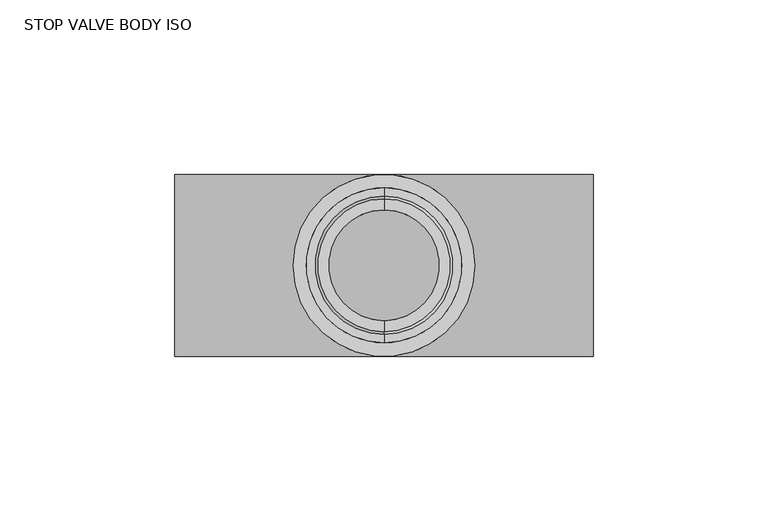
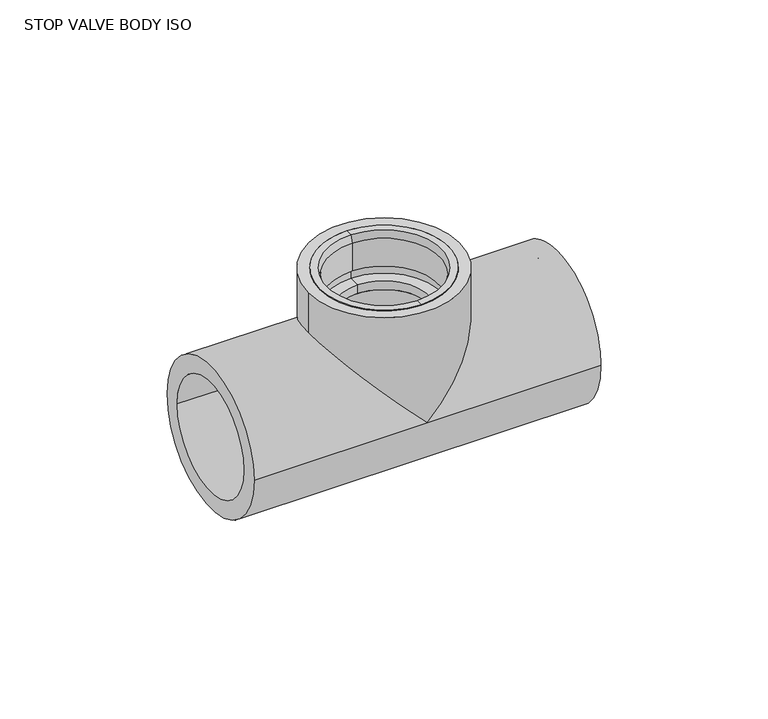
"""IFC4 building model written with IfcOpenShell, lengths in millimetres: valve geometry, Aquatherm - Stop Valve Body ISO : STOP VALVE BODY ISO."""

from ifc_helpers import new_model, si_unit, frame, origin, origin_with_axes, place, context, project, spatial, polyline, circle_curve, ellipse_curve, source, transform, mapped, element, save
from ifc_brep_helpers import plane_surface, cylinder_surface, revolved_surface, advanced_brep


def stop_valve_body_iso_90146ca7(model_context):
    return source(origin(), model_context, "Body", "AdvancedBrep", [
        advanced_brep(
        [(0.0, -19.05, 28.194), (0.0, 19.05, 28.194), (0.0, 19.05, 38.3143125), (0.0, -19.05, 38.3143125), (0.0, -19.84375, 28.194), (0.0, 19.84375, 28.194), (0.0, -19.84375, 25.019), (0.0, 19.84375, 25.019), (0.0, -15.875, 25.019), (0.0, 15.875, 25.019), (0.0, -15.875, 21.844), (0.0, 15.875, 21.844), (0.0, -22.225, 21.844), (0.0, 22.225, 21.844), (0.0, -22.225, 40.894), (0.0, 22.225, 40.894), (0.0, -19.84375, 40.894), (0.0, 19.84375, 40.894)],
        [
            (0, 1, circle_curve(frame((0.0, 0.0, 28.194), z_axis=(0.0, 0.0, -1.0), x_axis=(0.0, 1.0000000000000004, 0.0)), 19.05)),
            (1, 2),
            (2, 3, circle_curve(frame((0.0, 0.0, 38.3143125), z_axis=(0.0, 0.0, 1.0), x_axis=(0.0, 1.0000000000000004, 0.0)), 19.05)),
            (3, 0),
            (1, 0, circle_curve(frame((0.0, 0.0, 28.194), z_axis=(0.0, 0.0, -1.0), x_axis=(0.0, 1.0000000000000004, 0.0)), 19.05)),
            (3, 2, circle_curve(frame((0.0, 0.0, 38.3143125), z_axis=(0.0, 0.0, 1.0), x_axis=(0.0, 1.0000000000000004, 0.0)), 19.05)),
            (4, 5, circle_curve(frame((0.0, 0.0, 28.194), z_axis=(0.0, 0.0, -1.0), x_axis=(0.0, 1.0000000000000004, 0.0)), 19.84375)),
            (5, 1),
            (0, 4),
            (5, 4, circle_curve(frame((0.0, 0.0, 28.194), z_axis=(0.0, 0.0, -1.0), x_axis=(0.0, 1.0000000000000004, 0.0)), 19.84375)),
            (6, 7, circle_curve(frame((0.0, 0.0, 25.019), z_axis=(0.0, 0.0, -1.0), x_axis=(0.0, 1.0000000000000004, 0.0)), 19.84375)),
            (7, 5),
            (4, 6),
            (7, 6, circle_curve(frame((0.0, 0.0, 25.019), z_axis=(0.0, 0.0, -1.0), x_axis=(0.0, 1.0000000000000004, 0.0)), 19.84375)),
            (8, 9, circle_curve(frame((0.0, 0.0, 25.019), z_axis=(0.0, 0.0, -1.0), x_axis=(0.0, 1.0000000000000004, 0.0)), 15.875)),
            (9, 7),
            (6, 8),
            (9, 8, circle_curve(frame((0.0, 0.0, 25.019), z_axis=(0.0, 0.0, -1.0), x_axis=(0.0, 1.0000000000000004, 0.0)), 15.875)),
            (10, 11, circle_curve(frame((0.0, 0.0, 21.844), z_axis=(0.0, 0.0, -1.0), x_axis=(0.0, 1.0000000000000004, 0.0)), 15.875)),
            (11, 9),
            (8, 10),
            (11, 10, circle_curve(frame((0.0, 0.0, 21.844), z_axis=(0.0, 0.0, -1.0), x_axis=(0.0, 1.0000000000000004, 0.0)), 15.875)),
            (12, 13, circle_curve(frame((0.0, 0.0, 21.844), z_axis=(0.0, 0.0, -1.0), x_axis=(0.0, 1.0000000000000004, 0.0)), 22.225)),
            (13, 11),
            (10, 12),
            (13, 12, circle_curve(frame((0.0, 0.0, 21.844), z_axis=(0.0, 0.0, -1.0), x_axis=(0.0, 1.0000000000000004, 0.0)), 22.225)),
            (14, 15, circle_curve(frame((0.0, 0.0, 40.894), z_axis=(0.0, 0.0, -1.0), x_axis=(0.0, 1.0000000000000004, 0.0)), 22.225)),
            (15, 13),
            (12, 14),
            (15, 14, circle_curve(frame((0.0, 0.0, 40.894), z_axis=(0.0, 0.0, -1.0), x_axis=(0.0, 1.0000000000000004, 0.0)), 22.225)),
            (16, 17, circle_curve(frame((0.0, 0.0, 40.894), z_axis=(0.0, 0.0, -1.0), x_axis=(0.0, 1.0000000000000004, 0.0)), 19.84375)),
            (17, 15),
            (14, 16),
            (17, 16, circle_curve(frame((0.0, 0.0, 40.894), z_axis=(0.0, 0.0, -1.0), x_axis=(0.0, 1.0000000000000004, 0.0)), 19.84375)),
            (2, 17),
            (16, 3),
        ],
        [
            revolved_surface(polyline([(0.0, 19.050000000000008, 38.3143125), (0.0, 19.050000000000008, 28.193999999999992)]), (0.0, 0.0, 42.7272251), (0.0, 0.0, 1.0000000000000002)),
            plane_surface(frame((0.0, 0.0, 28.194), z_axis=(0.0, 0.0, -1.0), x_axis=(0.0, 1.0, 0.0))),
            revolved_surface(polyline([(0.0, 19.843750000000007, 28.193999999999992), (0.0, 19.843750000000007, 25.01899999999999)]), (0.0, 0.0, 42.7272251), (0.0, 0.0, 1.0000000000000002)),
            plane_surface(frame((0.0, 0.0, 25.019), z_axis=(0.0, 0.0, 1.0), x_axis=(0.0, 1.0, 0.0))),
            revolved_surface(polyline([(0.0, 15.875000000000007, 25.01899999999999), (0.0, 15.875000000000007, 21.843999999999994)]), (0.0, 0.0, 42.7272251), (0.0, 0.0, 1.0000000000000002)),
            plane_surface(frame((0.0, 0.0, 21.844), z_axis=(0.0, 0.0, -1.0), x_axis=(0.0, 1.0, 0.0))),
            cylinder_surface(frame((0.0, 0.0, 42.7272251), z_axis=(0.0, 0.0, 1.0000000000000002), x_axis=(0.0, 1.0000000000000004, 0.0)), 22.225),
            plane_surface(frame((0.0, 0.0, 40.894), z_axis=(0.0, 0.0, 1.0), x_axis=(0.0, 1.0, 0.0))),
            revolved_surface(polyline([(0.0, 19.84375, 40.894), (0.0, 19.05, 38.3143125)]), (0.0, 0.0, 42.7272251), (0.0, 0.0, 1.0000000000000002)),
        ],
        [
            (0, [[1, 2, 3, 4]]),
            (0, [[5, -4, 6, -2]]),
            (1, [[7, 8, -1, 9]]),
            (1, [[10, -9, -5, -8]]),
            (2, [[11, 12, -7, 13]]),
            (2, [[14, -13, -10, -12]]),
            (3, [[15, 16, -11, 17]]),
            (3, [[18, -17, -14, -16]]),
            (4, [[19, 20, -15, 21]]),
            (4, [[22, -21, -18, -20]]),
            (5, [[23, 24, -19, 25]]),
            (5, [[26, -25, -22, -24]]),
            (6, [[27, 28, -23, 29]]),
            (6, [[30, -29, -26, -28]]),
            (7, [[31, 32, -27, 33]]),
            (7, [[34, -33, -30, -32]]),
            (8, [[-3, 35, -31, 36]]),
            (8, [[-6, -36, -34, -35]]),
        ],
    ),
        advanced_brep(
        [(-59.944, -26.035, 0.0), (-59.944, 26.035, 0.0), (-59.944, -19.939, 0.0), (-59.944, 19.939, 0.0), (59.944, -26.035, 0.0), (59.944, 26.035, 0.0), (59.944, 19.939, 0.0), (59.944, -19.939, 0.0), (0.0, -26.035, 0.0), (-26.035, 0.0, 26.035), (0.0, 26.035, 0.0), (26.035, 0.0, 26.035), (-26.035, 0.0, 40.894), (26.035, 0.0, 40.894), (22.225, 0.0, 40.894), (-22.225, 0.0, 40.894), (-22.225, 0.0, 21.844), (22.225, 0.0, 21.844), (15.875, 0.0, 21.844), (-15.875, 0.0, 21.844), (39.624, -19.939, 0.0), (39.624, 19.939, 0.0), (39.624, 15.875, 0.0), (39.624, -15.875, 0.0), (0.0, 15.875, 0.0), (-39.624, 15.875, 0.0), (-39.624, -15.875, 0.0), (0.0, -15.875, 0.0), (15.875, 0.0, 15.875), (-15.875, 0.0, 15.875), (-39.624, 19.939, 0.0), (-39.624, -19.939, 0.0)],
        [
            (0, 1, circle_curve(frame((-59.944, 0.0, 0.0), z_axis=(-1.0, 0.0, 0.0), x_axis=(0.0, 1.0, 0.0)), 26.035)),
            (1, 0, circle_curve(frame((-59.944, 0.0, 0.0), z_axis=(-1.0, 0.0, 0.0), x_axis=(0.0, 1.0, 0.0)), 26.035)),
            (2, 3, circle_curve(frame((-59.944, 0.0, 0.0), z_axis=(1.0, 0.0, 0.0), x_axis=(0.0, 1.0, 0.0)), 19.939)),
            (3, 2, circle_curve(frame((-59.944, 0.0, 0.0), z_axis=(1.0, 0.0, 0.0), x_axis=(0.0, 1.0, 0.0)), 19.939)),
            (4, 5, circle_curve(frame((59.944, 0.0, 0.0), z_axis=(1.0, 0.0, 0.0), x_axis=(0.0, 1.0, 0.0)), 26.035)),
            (5, 4, circle_curve(frame((59.944, 0.0, 0.0), z_axis=(1.0, 0.0, 0.0), x_axis=(0.0, 1.0, 0.0)), 26.035)),
            (6, 7, circle_curve(frame((59.944, 0.0, 0.0), z_axis=(-1.0, 0.0, 0.0), x_axis=(0.0, 1.0, 0.0)), 19.939)),
            (7, 6, circle_curve(frame((59.944, 0.0, 0.0), z_axis=(-1.0, 0.0, 0.0), x_axis=(0.0, 1.0, 0.0)), 19.939)),
            (0, 8),
            (8, 9, ellipse_curve(frame((0.0, 0.0, 0.0), z_axis=(-0.7071067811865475, 0.0, -0.7071067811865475), x_axis=(-0.7071067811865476, 0.0, 0.7071067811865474)), 36.8190501, 26.035)),
            (9, 10, ellipse_curve(frame((0.0, 0.0, 0.0), z_axis=(-0.7071067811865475, 0.0, -0.7071067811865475), x_axis=(-0.7071067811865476, 0.0, 0.7071067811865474)), 36.8190501, 26.035)),
            (10, 1),
            (5, 10),
            (10, 11, ellipse_curve(frame((0.0, 0.0, 0.0), z_axis=(0.7071067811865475, 0.0, -0.7071067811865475), x_axis=(-0.7071067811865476, 0.0, -0.7071067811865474)), 36.8190501, 26.035)),
            (11, 8, ellipse_curve(frame((0.0, 0.0, 0.0), z_axis=(0.7071067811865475, 0.0, -0.7071067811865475), x_axis=(-0.7071067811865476, 0.0, -0.7071067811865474)), 36.8190501, 26.035)),
            (8, 4),
            (12, 13, circle_curve(frame((0.0, 0.0, 40.894), z_axis=(0.0, 0.0, 1.0), x_axis=(1.0, 0.0, 0.0)), 26.035)),
            (13, 12, circle_curve(frame((0.0, 0.0, 40.894), z_axis=(0.0, 0.0, 1.0), x_axis=(1.0, 0.0, 0.0)), 26.035)),
            (14, 15, circle_curve(frame((0.0, 0.0, 40.894), z_axis=(0.0, 0.0, -1.0), x_axis=(1.0, 0.0, 0.0)), 22.225)),
            (15, 14, circle_curve(frame((0.0, 0.0, 40.894), z_axis=(0.0, 0.0, -1.0), x_axis=(1.0, 0.0, 0.0)), 22.225)),
            (12, 9),
            (11, 13),
            (16, 17, circle_curve(frame((0.0, 0.0, 21.844), z_axis=(0.0, 0.0, 1.0), x_axis=(1.0, 0.0, 0.0)), 22.225)),
            (17, 16, circle_curve(frame((0.0, 0.0, 21.844), z_axis=(0.0, 0.0, 1.0), x_axis=(1.0, 0.0, 0.0)), 22.225)),
            (18, 19, circle_curve(frame((0.0, 0.0, 21.844), z_axis=(0.0, 0.0, -1.0), x_axis=(1.0, 0.0, 0.0)), 15.875)),
            (19, 18, circle_curve(frame((0.0, 0.0, 21.844), z_axis=(0.0, 0.0, -1.0), x_axis=(1.0, 0.0, 0.0)), 15.875)),
            (16, 15),
            (14, 17),
            (20, 7),
            (6, 21),
            (21, 20, circle_curve(frame((39.624, 0.0, 0.0), z_axis=(-1.0, 0.0, 0.0), x_axis=(0.0, 1.0, 0.0)), 19.939)),
            (20, 21, circle_curve(frame((39.624, 0.0, 0.0), z_axis=(-1.0, 0.0, 0.0), x_axis=(0.0, 1.0, 0.0)), 19.939)),
            (21, 22),
            (22, 23, circle_curve(frame((39.624, 0.0, 0.0), z_axis=(-1.0, 0.0, 0.0), x_axis=(0.0, 1.0, 0.0)), 15.875)),
            (23, 20),
            (23, 22, circle_curve(frame((39.624, 0.0, 0.0), z_axis=(-1.0, 0.0, 0.0), x_axis=(0.0, 1.0, 0.0)), 15.875)),
            (22, 24),
            (24, 25),
            (25, 26, circle_curve(frame((-39.624, 0.0, 0.0), z_axis=(-1.0, 0.0, 0.0), x_axis=(0.0, 1.0, 0.0)), 15.875)),
            (26, 27),
            (27, 23),
            (27, 28, ellipse_curve(frame((0.0, 0.0, 0.0), z_axis=(-0.7071067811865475, 0.0, 0.7071067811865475), x_axis=(-0.7071067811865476, 0.0, -0.7071067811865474)), 22.4506403, 15.875)),
            (28, 24, ellipse_curve(frame((0.0, 0.0, 0.0), z_axis=(-0.7071067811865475, 0.0, 0.7071067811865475), x_axis=(-0.7071067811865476, 0.0, -0.7071067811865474)), 22.4506403, 15.875)),
            (26, 25, circle_curve(frame((-39.624, 0.0, 0.0), z_axis=(-1.0, 0.0, 0.0), x_axis=(0.0, 1.0, 0.0)), 15.875)),
            (24, 29, ellipse_curve(frame((0.0, 0.0, 0.0), z_axis=(0.7071067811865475, 0.0, 0.7071067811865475), x_axis=(-0.7071067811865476, 0.0, 0.7071067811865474)), 22.4506403, 15.875)),
            (29, 27, ellipse_curve(frame((0.0, 0.0, 0.0), z_axis=(0.7071067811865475, 0.0, 0.7071067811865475), x_axis=(-0.7071067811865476, 0.0, 0.7071067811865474)), 22.4506403, 15.875)),
            (25, 30),
            (30, 31, circle_curve(frame((-39.624, 0.0, 0.0), z_axis=(-1.0, 0.0, 0.0), x_axis=(0.0, 1.0, 0.0)), 19.939)),
            (31, 26),
            (31, 30, circle_curve(frame((-39.624, 0.0, 0.0), z_axis=(-1.0, 0.0, 0.0), x_axis=(0.0, 1.0, 0.0)), 19.939)),
            (30, 3),
            (2, 31),
            (29, 19),
            (18, 28),
        ],
        [
            plane_surface(frame((-59.944, 0.0, 0.0), z_axis=(-1.0, 0.0, 0.0), x_axis=(0.0, 0.0, 1.0))),
            plane_surface(frame((59.944, 0.0, 0.0), z_axis=(1.0, 0.0, 0.0), x_axis=(0.0, 0.0, 1.0))),
            cylinder_surface(frame((-59.944, 0.0, 0.0), z_axis=(-1.0, 0.0, 0.0), x_axis=(0.0, 1.0, 0.0)), 26.035),
            plane_surface(frame((26.035, 0.0, 40.894), z_axis=(0.0, 0.0, 1.0), x_axis=(0.0, 1.0, 0.0))),
            cylinder_surface(origin_with_axes(), 26.035),
            plane_surface(frame((22.225, 0.0, 21.844), z_axis=(0.0, 0.0, 1.0), x_axis=(0.0, -1.0, 0.0))),
            revolved_surface(polyline([(22.225, 0.0, 40.894), (22.225, 0.0, 21.844)]), (0.0, 0.0, 21.844), (0.0, 0.0, 1.0)),
            revolved_surface(polyline([(39.623999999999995, 19.939, 0.0), (59.94400000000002, 19.939, 0.0)]), (-104.394, 0.0, 0.0), (-1.0, 0.0, 0.0)),
            plane_surface(frame((39.624, 0.0, 0.0), z_axis=(1.0, 0.0, 0.0), x_axis=(0.0, 1.0, 0.0))),
            revolved_surface(polyline([(-39.623999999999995, 15.875, 0.0), (39.623999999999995, 15.875, 0.0)]), (-104.394, 0.0, 0.0), (-1.0, 0.0, 0.0)),
            revolved_surface(polyline([(-15.874999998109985, 15.875, 0.0), (39.623999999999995, 15.875, 0.0)]), (-104.394, 0.0, 0.0), (-1.0, 0.0, 0.0)),
            revolved_surface(polyline([(-39.623999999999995, 15.875, 0.0), (15.874999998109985, 15.875, 0.0)]), (-104.394, 0.0, 0.0), (-1.0, 0.0, 0.0)),
            plane_surface(frame((-39.624, 0.0, 0.0), z_axis=(-1.0, 0.0, 0.0), x_axis=(0.0, 1.0, 0.0))),
            revolved_surface(polyline([(-59.944, 19.939, 0.0), (-39.623999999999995, 19.939, 0.0)]), (-104.394, 0.0, 0.0), (-1.0, 0.0, 0.0)),
            revolved_surface(polyline([(15.875, 0.0, 21.844), (15.875, 0.0, -15.874999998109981)]), (0.0, 0.0, 0.0), (0.0, 0.0, 1.0)),
        ],
        [
            (0, [[1, 2], [3, 4]]),
            (1, [[5, 6], [7, 8]]),
            (2, [[-1, 9, 10, 11, 12]]),
            (2, [[-6, 13, 14, 15, 16]]),
            (2, [[-2, -12, -13, -5, -16, -9]]),
            (3, [[17, 18], [19, 20]]),
            (4, [[-17, 21, -10, -15, 22]]),
            (4, [[-18, -22, -14, -11, -21]]),
            (5, [[23, 24], [25, 26]]),
            (6, [[-23, 27, -19, 28]]),
            (6, [[-24, -28, -20, -27]]),
            (7, [[29, -7, 30, 31]]),
            (7, [[-29, 32, -30, -8]]),
            (8, [[-31, 33, 34, 35]]),
            (8, [[-32, -35, 36, -33]]),
            (9, [[-34, 37, 38, 39, 40, 41]]),
            (10, [[-36, -41, 42, 43, -37]]),
            (11, [[44, -38, 45, 46, -40]]),
            (12, [[-39, 47, 48, 49]]),
            (12, [[-44, -49, 50, -47]]),
            (13, [[-48, 51, -3, 52]]),
            (13, [[-50, -52, -4, -51]]),
            (14, [[53, -25, 54, -42, -46]]),
            (14, [[-53, -45, -43, -54, -26]]),
        ],
    ),
    ])


if __name__ == "__main__":
    model = new_model("IFC4")
    model_context = context("Model", 3, world=origin())
    ifc_project = project(units=[si_unit("LENGTHUNIT", "METRE", prefix="MILLI")], contexts=[model_context])
    site = spatial("IfcSite", under=ifc_project)
    building = spatial("IfcBuilding", under=site)
    placement = place(None, origin())
    stop_valve_body_iso_shape = stop_valve_body_iso_90146ca7(model_context)
    element("IfcValve", 1, ObjectType="Aquatherm - Stop Valve Body ISO : STOP VALVE BODY ISO", at=placement, inside=building, context=model_context, shape_type="MappedRepresentation", body=[
        mapped(stop_valve_body_iso_shape, transform((0.0, 0.0, 0.0), x_axis=(1.0, 0.0, 0.0), y_axis=(0.0, 1.0, 0.0), z_axis=(0.0, 0.0, 1.0))),
    ])
    save(model, "model.ifc")
